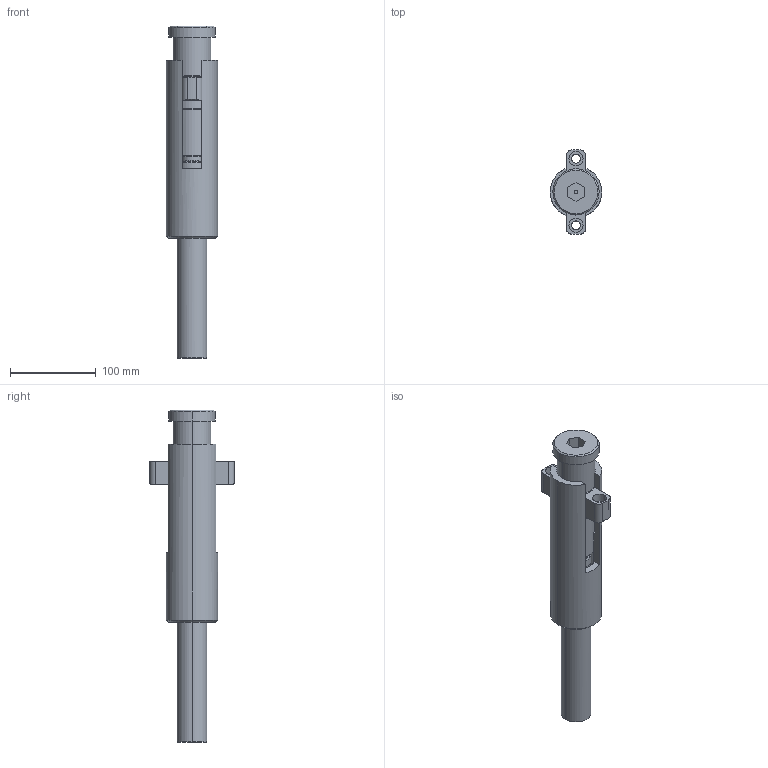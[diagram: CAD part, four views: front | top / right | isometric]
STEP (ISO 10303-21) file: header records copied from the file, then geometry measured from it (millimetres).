
FILE_DESCRIPTION (( 'STEP AP203' ), '1' );
FILE_NAME ('DKL6011.STEP', '2013-08-26T11:49:04', ( '' ), ( '' ), 'SwSTEP 2.0', 'SolidWorks 2013', '' );
FILE_SCHEMA (( 'CONFIG_CONTROL_DESIGN' ));
Length unit declared in the file: millimetre
Products named in the file (9): DKL6_71; DKL6_11; DKL6011; DKL6_31; DKL6_62; DKL6_51; DKL6_21; DKL6_41 short; DKL6_81
Assembly tree (11 placements, depth 2):
  DKL6011
    DKL6_31
    DKL6_62  x4
    DKL6_51
    DKL6_21
    DKL6_41 short
    DKL6_81
    DKL6_71
    DKL6_11
Bounding box: 60 x 98.94 x 388 mm (x, y, z)
Volume: 688706.8 mm3; surface area: 157568.3 mm2
Topology: 11 solids, 11 shells, 433 faces, 1035 edges, 636 vertices
Faces by surface type: plane 142, cylinder 136, cone 104, torus 49, bspline 2
Entity records: 15060 total; most frequent: CARTESIAN_POINT 5581, DIRECTION 1910, ORIENTED_EDGE 1686, EDGE_CURVE 843, AXIS2_PLACEMENT_3D 775, VERTEX_POINT 525, CIRCLE 408, EDGE_LOOP 400
